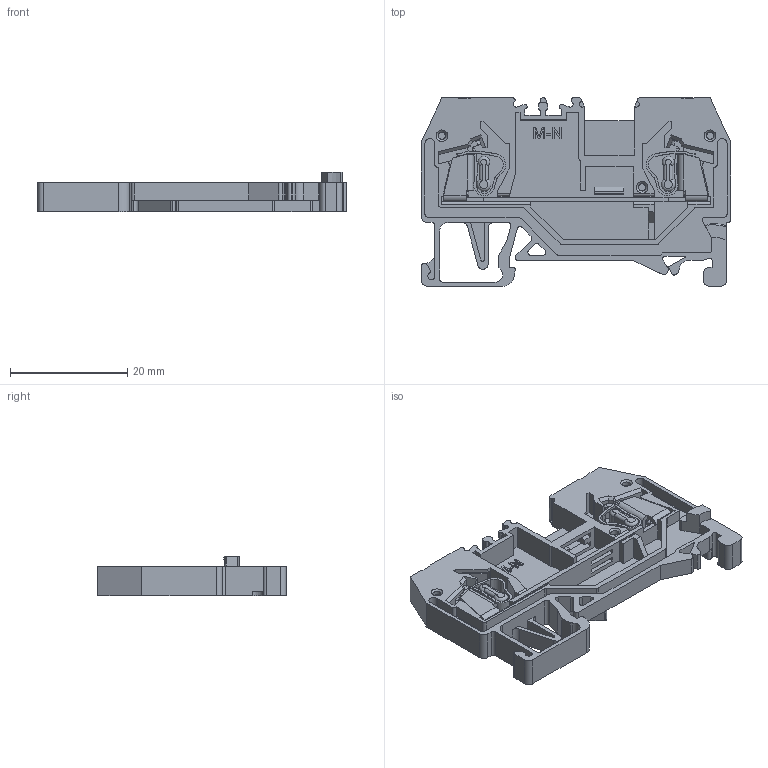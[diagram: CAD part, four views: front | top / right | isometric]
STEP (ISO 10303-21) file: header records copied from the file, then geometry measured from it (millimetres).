
FILE_DESCRIPTION (( 'STEP AP203' ), '1' );
FILE_NAME ('ﾊﾏﾐ1-2,5ﾂ-2ﾂ.STEP', '2019-03-01T12:54:40', ( '' ), ( '' ), 'SwSTEP 2.0', 'SolidWorks 2016', '' );
FILE_SCHEMA (( 'CONFIG_CONTROL_DESIGN' ));
Length unit declared in the file: millimetre
Products named in the file (1): ﾊﾏﾐ1-2,5ﾂ-2ﾂ
Bounding box: 52.8 x 32.2 x 6.8 mm (x, y, z)
Volume: 3262.7 mm3; surface area: 7418.3 mm2
Topology: 4 solids, 4 shells, 898 faces, 2508 edges, 1641 vertices
Faces by surface type: plane 585, cylinder 209, bspline 78, cone 19, torus 7
Full cylindrical faces by diameter (mm): 1.4 x3, 1.6 x3
Entity records: 33304 total; most frequent: CARTESIAN_POINT 10519, ORIENTED_EDGE 4980, DIRECTION 4316, EDGE_CURVE 2490, LINE 1842, VECTOR 1842, VERTEX_POINT 1640, AXIS2_PLACEMENT_3D 1237
